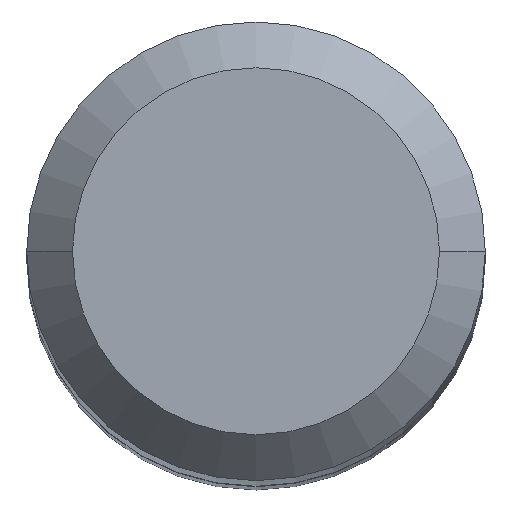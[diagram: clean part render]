
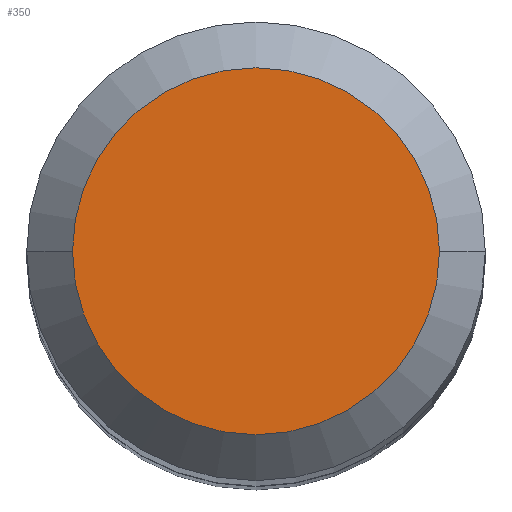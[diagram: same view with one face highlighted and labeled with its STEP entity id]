
A CAD part, top view. The second image highlights one B-rep face of the part: STEP entity #350.
In plain terms, the highlighted planar face has unit normal (0, 0, 1).
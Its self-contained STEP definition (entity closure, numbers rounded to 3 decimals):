
#8 = CARTESIAN_POINT ( 'NONE',  ( 0., 0., 0. ) ) ;
#22 = VERTEX_POINT ( 'NONE', #136 ) ;
#79 = DIRECTION ( 'NONE',  ( 0., 0., 1. ) ) ;
#122 = CIRCLE ( 'NONE', #197, 2.4 ) ;
#136 = CARTESIAN_POINT ( 'NONE',  ( -2.4, 0., 0. ) ) ;
#144 = CARTESIAN_POINT ( 'NONE',  ( 0., 0., 0. ) ) ;
#147 = AXIS2_PLACEMENT_3D ( 'NONE', #629, #79, #490 ) ;
#193 = DIRECTION ( 'NONE',  ( 0., 0., -1. ) ) ;
#194 = DIRECTION ( 'NONE',  ( 0., 0., -1. ) ) ;
#197 = AXIS2_PLACEMENT_3D ( 'NONE', #8, #194, #301 ) ;
#214 = PLANE ( 'NONE',  #147 ) ;
#216 = ORIENTED_EDGE ( 'NONE', *, *, #647, .F. ) ;
#218 = EDGE_CURVE ( 'NONE', #436, #22, #122, .T. ) ;
#273 = CARTESIAN_POINT ( 'NONE',  ( 2.4, 0., 0. ) ) ;
#286 = CIRCLE ( 'NONE', #423, 2.4 ) ;
#301 = DIRECTION ( 'NONE',  ( -1., 0., 0. ) ) ;
#345 = DIRECTION ( 'NONE',  ( -1., 0., 0. ) ) ;
#350 = ADVANCED_FACE ( 'NONE', ( #572 ), #214, .T. ) ;
#381 = EDGE_LOOP ( 'NONE', ( #216, #641 ) ) ;
#423 = AXIS2_PLACEMENT_3D ( 'NONE', #144, #193, #345 ) ;
#436 = VERTEX_POINT ( 'NONE', #273 ) ;
#490 = DIRECTION ( 'NONE',  ( 1., 0., 0. ) ) ;
#572 = FACE_OUTER_BOUND ( 'NONE', #381, .T. ) ;
#629 = CARTESIAN_POINT ( 'NONE',  ( 0., 2.4, 0. ) ) ;
#641 = ORIENTED_EDGE ( 'NONE', *, *, #218, .F. ) ;
#647 = EDGE_CURVE ( 'NONE', #22, #436, #286, .T. ) ;
